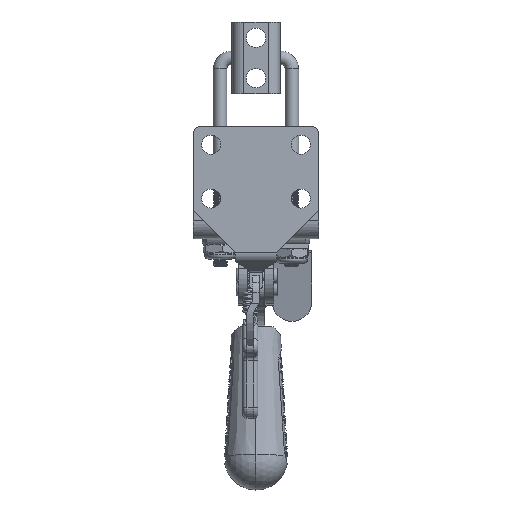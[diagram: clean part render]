
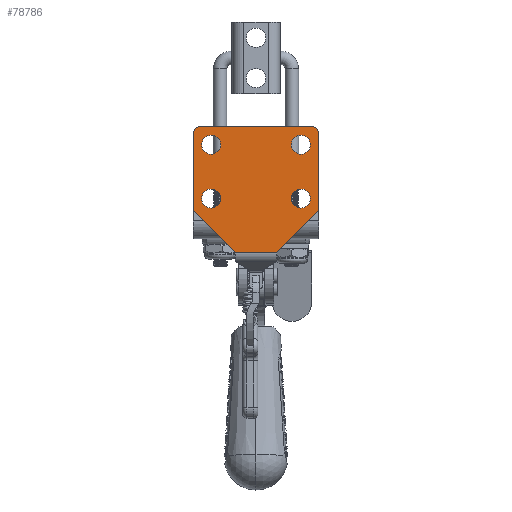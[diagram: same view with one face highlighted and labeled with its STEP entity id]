
A CAD part, front view. The second image highlights one B-rep face of the part: STEP entity #78786.
In plain terms, the highlighted planar face has unit normal (0, -1, 0).
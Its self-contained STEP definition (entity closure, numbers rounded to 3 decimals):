
#77853=DIRECTION('',(1.,0.,0.));
#77854=VECTOR('',#77853,14.673);
#77855=CARTESIAN_POINT('',(-7.336,0.,38.1));
#77856=LINE('',#77855,#77854);
#77867=DIRECTION('',(-0.707,0.,0.707));
#77868=VECTOR('',#77867,20.069);
#77869=CARTESIAN_POINT('',(21.528,0.,23.909));
#77870=LINE('',#77869,#77868);
#77874=CARTESIAN_POINT('',(19.844,0.,22.225));
#77875=DIRECTION('',(0.,-1.,0.));
#77876=DIRECTION('',(1.,0.,0.));
#77877=AXIS2_PLACEMENT_3D('',#77874,#77875,#77876);
#77882=DIRECTION('',(0.,0.,1.));
#77883=VECTOR('',#77882,26.194);
#77884=CARTESIAN_POINT('',(22.225,0.,-3.969));
#77885=LINE('',#77884,#77883);
#77889=CARTESIAN_POINT('',(19.844,0.,-3.969));
#77890=DIRECTION('',(0.,-1.,0.));
#77891=DIRECTION('',(0.,0.,-1.));
#77892=AXIS2_PLACEMENT_3D('',#77889,#77890,#77891);
#77897=DIRECTION('',(1.,0.,0.));
#77898=VECTOR('',#77897,39.688);
#77899=CARTESIAN_POINT('',(-19.844,0.,-6.35));
#77900=LINE('',#77899,#77898);
#77904=CARTESIAN_POINT('',(-19.844,0.,-3.969));
#77905=DIRECTION('',(0.,-1.,0.));
#77906=DIRECTION('',(-1.,0.,0.));
#77907=AXIS2_PLACEMENT_3D('',#77904,#77905,#77906);
#77912=DIRECTION('',(0.,0.,-1.));
#77913=VECTOR('',#77912,26.194);
#77914=CARTESIAN_POINT('',(-22.225,0.,22.225));
#77915=LINE('',#77914,#77913);
#77919=CARTESIAN_POINT('',(-19.844,0.,22.225));
#77920=DIRECTION('',(0.,-1.,0.));
#77921=DIRECTION('',(-0.707,0.,0.707));
#77922=AXIS2_PLACEMENT_3D('',#77919,#77920,#77921);
#77927=DIRECTION('',(-0.707,0.,-0.707));
#77928=VECTOR('',#77927,20.069);
#77929=CARTESIAN_POINT('',(-7.336,0.,38.1));
#77930=LINE('',#77929,#77928);
#77934=CARTESIAN_POINT('',(15.875,0.,0.));
#77935=DIRECTION('',(0.,1.,0.));
#77936=DIRECTION('',(0.,0.,-1.));
#77937=AXIS2_PLACEMENT_3D('',#77934,#77935,#77936);
#77942=CARTESIAN_POINT('',(15.875,0.,0.));
#77943=DIRECTION('',(0.,1.,0.));
#77944=DIRECTION('',(0.,0.,1.));
#77945=AXIS2_PLACEMENT_3D('',#77942,#77943,#77944);
#77950=CARTESIAN_POINT('',(-15.875,0.,19.05));
#77951=DIRECTION('',(0.,1.,0.));
#77952=DIRECTION('',(0.,0.,-1.));
#77953=AXIS2_PLACEMENT_3D('',#77950,#77951,#77952);
#77958=CARTESIAN_POINT('',(-15.875,0.,19.05));
#77959=DIRECTION('',(0.,1.,0.));
#77960=DIRECTION('',(0.,0.,1.));
#77961=AXIS2_PLACEMENT_3D('',#77958,#77959,#77960);
#77966=CARTESIAN_POINT('',(-15.875,0.,0.));
#77967=DIRECTION('',(0.,1.,0.));
#77968=DIRECTION('',(0.,0.,-1.));
#77969=AXIS2_PLACEMENT_3D('',#77966,#77967,#77968);
#77974=CARTESIAN_POINT('',(-15.875,0.,0.));
#77975=DIRECTION('',(0.,1.,0.));
#77976=DIRECTION('',(0.,0.,1.));
#77977=AXIS2_PLACEMENT_3D('',#77974,#77975,#77976);
#77982=CARTESIAN_POINT('',(15.875,0.,19.05));
#77983=DIRECTION('',(0.,1.,0.));
#77984=DIRECTION('',(0.,0.,-1.));
#77985=AXIS2_PLACEMENT_3D('',#77982,#77983,#77984);
#77990=CARTESIAN_POINT('',(15.875,0.,19.05));
#77991=DIRECTION('',(0.,1.,0.));
#77992=DIRECTION('',(0.,0.,1.));
#77993=AXIS2_PLACEMENT_3D('',#77990,#77991,#77992);
#78153=CARTESIAN_POINT('',(-15.875,0.,3.366));
#78154=CARTESIAN_POINT('',(-15.875,0.,-3.366));
#78155=VERTEX_POINT('',#78153);
#78156=VERTEX_POINT('',#78154);
#78160=CARTESIAN_POINT('',(7.336,0.,38.1));
#78162=VERTEX_POINT('',#78160);
#78163=CARTESIAN_POINT('',(-21.528,0.,23.909));
#78164=CARTESIAN_POINT('',(-22.225,0.,22.225));
#78165=VERTEX_POINT('',#78163);
#78166=VERTEX_POINT('',#78164);
#78167=CARTESIAN_POINT('',(-7.336,0.,38.1));
#78168=VERTEX_POINT('',#78167);
#78169=CARTESIAN_POINT('',(-22.225,0.,-3.969));
#78170=VERTEX_POINT('',#78169);
#78181=CARTESIAN_POINT('',(-19.844,0.,-6.35));
#78182=CARTESIAN_POINT('',(19.844,0.,-6.35));
#78183=VERTEX_POINT('',#78181);
#78184=VERTEX_POINT('',#78182);
#78207=CARTESIAN_POINT('',(15.875,0.,-3.366));
#78208=CARTESIAN_POINT('',(15.875,0.,3.366));
#78209=VERTEX_POINT('',#78207);
#78210=VERTEX_POINT('',#78208);
#78225=CARTESIAN_POINT('',(15.875,0.,15.685));
#78226=VERTEX_POINT('',#78225);
#78231=CARTESIAN_POINT('',(22.225,0.,-3.969));
#78232=VERTEX_POINT('',#78231);
#78233=CARTESIAN_POINT('',(22.225,0.,22.225));
#78234=CARTESIAN_POINT('',(21.528,0.,23.909));
#78235=VERTEX_POINT('',#78233);
#78236=VERTEX_POINT('',#78234);
#78251=CARTESIAN_POINT('',(-15.875,0.,22.416));
#78252=CARTESIAN_POINT('',(-15.875,0.,15.685));
#78253=VERTEX_POINT('',#78251);
#78254=VERTEX_POINT('',#78252);
#78265=CARTESIAN_POINT('',(15.875,0.,22.416));
#78266=VERTEX_POINT('',#78265);
#78737=CARTESIAN_POINT('',(-19.844,0.,22.225));
#78738=DIRECTION('',(0.,-1.,0.));
#78739=DIRECTION('',(0.,0.,-1.));
#78740=AXIS2_PLACEMENT_3D('',#78737,#78738,#78739);
#78741=PLANE('',#78740);
#78743=ORIENTED_EDGE('',*,*,#78742,.F.);
#78745=ORIENTED_EDGE('',*,*,#78744,.F.);
#78747=ORIENTED_EDGE('',*,*,#78746,.F.);
#78749=ORIENTED_EDGE('',*,*,#78748,.F.);
#78751=ORIENTED_EDGE('',*,*,#78750,.F.);
#78753=ORIENTED_EDGE('',*,*,#78752,.F.);
#78755=ORIENTED_EDGE('',*,*,#78754,.F.);
#78757=ORIENTED_EDGE('',*,*,#78756,.F.);
#78759=ORIENTED_EDGE('',*,*,#78758,.F.);
#78760=ORIENTED_EDGE('',*,*,#78729,.T.);
#78761=EDGE_LOOP('',(#78743,#78745,#78747,#78749,#78751,#78753,#78755,#78757,
#78759,#78760));
#78762=FACE_OUTER_BOUND('',#78761,.F.);
#78764=ORIENTED_EDGE('',*,*,#78763,.F.);
#78766=ORIENTED_EDGE('',*,*,#78765,.F.);
#78767=EDGE_LOOP('',(#78764,#78766));
#78768=FACE_BOUND('',#78767,.F.);
#78770=ORIENTED_EDGE('',*,*,#78769,.F.);
#78772=ORIENTED_EDGE('',*,*,#78771,.F.);
#78773=EDGE_LOOP('',(#78770,#78772));
#78774=FACE_BOUND('',#78773,.F.);
#78775=ORIENTED_EDGE('',*,*,#78276,.F.);
#78777=ORIENTED_EDGE('',*,*,#78776,.F.);
#78778=EDGE_LOOP('',(#78775,#78777));
#78779=FACE_BOUND('',#78778,.F.);
#78781=ORIENTED_EDGE('',*,*,#78780,.F.);
#78783=ORIENTED_EDGE('',*,*,#78782,.F.);
#78784=EDGE_LOOP('',(#78781,#78783));
#78785=FACE_BOUND('',#78784,.F.);
#77878=CIRCLE('',#77877,2.381);
#77893=CIRCLE('',#77892,2.381);
#77908=CIRCLE('',#77907,2.381);
#77923=CIRCLE('',#77922,2.381);
#77938=CIRCLE('',#77937,3.366);
#77946=CIRCLE('',#77945,3.366);
#77954=CIRCLE('',#77953,3.366);
#77962=CIRCLE('',#77961,3.366);
#77970=CIRCLE('',#77969,3.366);
#77978=CIRCLE('',#77977,3.366);
#77986=CIRCLE('',#77985,3.366);
#77994=CIRCLE('',#77993,3.366);
#78276=EDGE_CURVE('',#78156,#78155,#77970,.T.);
#78729=EDGE_CURVE('',#78168,#78162,#77856,.T.);
#78742=EDGE_CURVE('',#78236,#78162,#77870,.T.);
#78744=EDGE_CURVE('',#78235,#78236,#77878,.T.);
#78746=EDGE_CURVE('',#78232,#78235,#77885,.T.);
#78748=EDGE_CURVE('',#78184,#78232,#77893,.T.);
#78750=EDGE_CURVE('',#78183,#78184,#77900,.T.);
#78752=EDGE_CURVE('',#78170,#78183,#77908,.T.);
#78754=EDGE_CURVE('',#78166,#78170,#77915,.T.);
#78756=EDGE_CURVE('',#78165,#78166,#77923,.T.);
#78758=EDGE_CURVE('',#78168,#78165,#77930,.T.);
#78763=EDGE_CURVE('',#78209,#78210,#77938,.T.);
#78765=EDGE_CURVE('',#78210,#78209,#77946,.T.);
#78769=EDGE_CURVE('',#78254,#78253,#77954,.T.);
#78771=EDGE_CURVE('',#78253,#78254,#77962,.T.);
#78776=EDGE_CURVE('',#78155,#78156,#77978,.T.);
#78780=EDGE_CURVE('',#78226,#78266,#77986,.T.);
#78782=EDGE_CURVE('',#78266,#78226,#77994,.T.);
#78786=ADVANCED_FACE('',(#78762,#78768,#78774,#78779,#78785),#78741,.T.);
